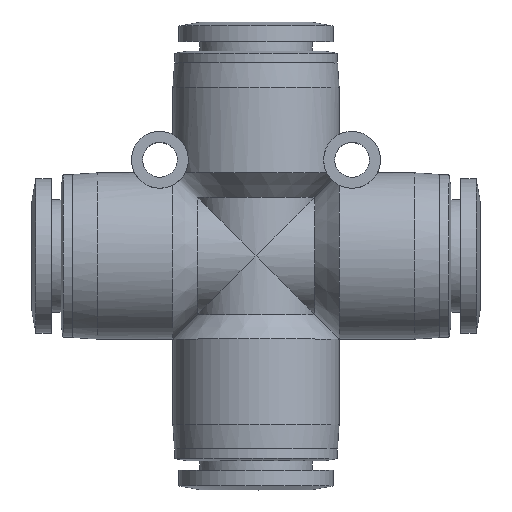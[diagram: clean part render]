
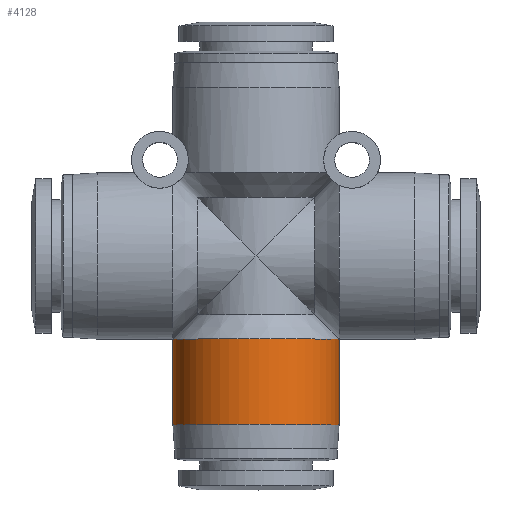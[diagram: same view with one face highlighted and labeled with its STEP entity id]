
A CAD part, top view. The second image highlights one B-rep face of the part: STEP entity #4128.
In plain terms, the highlighted cylindrical face has radius 10.25 mm (diameter 20.5 mm), a partial arc.
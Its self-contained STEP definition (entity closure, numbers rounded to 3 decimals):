
#242 = CARTESIAN_POINT ( 'NONE',  ( -2.683, -10.25, 9.983 ) ) ;
#377 = VECTOR ( 'NONE', #2493, 1000. ) ;
#464 = CARTESIAN_POINT ( 'NONE',  ( 8.197, -20.8, 6.299 ) ) ;
#502 = CARTESIAN_POINT ( 'NONE',  ( -2.683, -20.8, 9.983 ) ) ;
#560 = EDGE_CURVE ( 'NONE', #1335, #4338, #625, .T. ) ;
#579 = CARTESIAN_POINT ( 'NONE',  ( 10.25, -20.8, 0. ) ) ;
#589 = CARTESIAN_POINT ( 'NONE',  ( 2.683, -10.25, 9.983 ) ) ;
#625 = LINE ( 'NONE', #5816, #1663 ) ;
#747 = CARTESIAN_POINT ( 'NONE',  ( 10.25, -10.25, 0. ) ) ;
#854 = VERTEX_POINT ( 'NONE', #1854 ) ;
#1084 = CARTESIAN_POINT ( 'NONE',  ( 2.683, -20.8, 9.983 ) ) ;
#1204 = DIRECTION ( 'NONE',  ( 0., 1., 0. ) ) ;
#1241 = AXIS2_PLACEMENT_3D ( 'NONE', #6901, #2243, #2106 ) ;
#1335 = VERTEX_POINT ( 'NONE', #3592 ) ;
#1455 = CARTESIAN_POINT ( 'NONE',  ( 10.25, -10.25, 0. ) ) ;
#1663 = VECTOR ( 'NONE', #1204, 1000. ) ;
#1751 = CARTESIAN_POINT ( 'NONE',  ( 6.299, -10.25, 8.197 ) ) ;
#1854 = CARTESIAN_POINT ( 'NONE',  ( 10.25, -20.8, 0. ) ) ;
#1912 = CARTESIAN_POINT ( 'NONE',  ( 10.25, -15.525, 0. ) ) ;
#2094 = CARTESIAN_POINT ( 'NONE',  ( -10.25, -10.25, 0. ) ) ;
#2106 = DIRECTION ( 'NONE',  ( -1., 0., 0. ) ) ;
#2243 = DIRECTION ( 'NONE',  ( 0., 1., 0. ) ) ;
#2289 = CARTESIAN_POINT ( 'NONE',  ( -8.956, -20.8, 5.162 ) ) ;
#2352 = ORIENTED_EDGE ( 'NONE', *, *, #560, .F. ) ;
#2370 = CARTESIAN_POINT ( 'NONE',  ( -1.342, -10.25, 10.25 ) ) ;
#2493 = DIRECTION ( 'NONE',  ( 0., 1., 0. ) ) ;
#2723 = FACE_OUTER_BOUND ( 'NONE', #3558, .T. ) ;
#2825 = CYLINDRICAL_SURFACE ( 'NONE', #1241, 10.25 ) ;
#2868 = CARTESIAN_POINT ( 'NONE',  ( -5.162, -20.8, 8.956 ) ) ;
#3071 = CARTESIAN_POINT ( 'NONE',  ( 8.956, -10.25, 5.162 ) ) ;
#3187 = CARTESIAN_POINT ( 'NONE',  ( -10.25, -10.25, 0. ) ) ;
#3444 = CARTESIAN_POINT ( 'NONE',  ( 9.983, -20.8, 2.683 ) ) ;
#3531 = CARTESIAN_POINT ( 'NONE',  ( 5.162, -10.25, 8.956 ) ) ;
#3558 = EDGE_LOOP ( 'NONE', ( #6287, #4491, #5739, #2352 ) ) ;
#3592 = CARTESIAN_POINT ( 'NONE',  ( -10.25, -20.8, 0. ) ) ;
#3722 = CARTESIAN_POINT ( 'NONE',  ( -8.956, -10.25, 5.162 ) ) ;
#3768 = CARTESIAN_POINT ( 'NONE',  ( -9.983, -10.25, 2.683 ) ) ;
#4016 = B_SPLINE_CURVE_WITH_KNOTS ( 'NONE', 3,
 ( #747, #6021, #6633, #3071, #7209, #1751, #3531, #589, #7674, #2370, #242, #7247, #5548, #4381, #3722, #3768, #4884, #3187 ),
 .UNSPECIFIED., .F., .F.,
 ( 4, 2, 2, 2, 2, 2, 2, 2, 4 ),
 ( 0., 0.125, 0.25, 0.375, 0.5, 0.625, 0.75, 0.875, 1. ),
 .UNSPECIFIED. ) ;
#4021 = CARTESIAN_POINT ( 'NONE',  ( 6.299, -20.8, 8.197 ) ) ;
#4128 = ADVANCED_FACE ( 'NONE', ( #2723 ), #2825, .T. ) ;
#4338 = VERTEX_POINT ( 'NONE', #2094 ) ;
#4381 = CARTESIAN_POINT ( 'NONE',  ( -8.197, -10.25, 6.299 ) ) ;
#4491 = ORIENTED_EDGE ( 'NONE', *, *, #4674, .T. ) ;
#4644 = CARTESIAN_POINT ( 'NONE',  ( 8.956, -20.8, 5.162 ) ) ;
#4674 = EDGE_CURVE ( 'NONE', #854, #7086, #4771, .T. ) ;
#4771 = LINE ( 'NONE', #1912, #377 ) ;
#4884 = CARTESIAN_POINT ( 'NONE',  ( -10.25, -10.25, 1.342 ) ) ;
#5218 = CARTESIAN_POINT ( 'NONE',  ( -6.299, -20.8, 8.197 ) ) ;
#5548 = CARTESIAN_POINT ( 'NONE',  ( -6.299, -10.25, 8.197 ) ) ;
#5608 = B_SPLINE_CURVE_WITH_KNOTS ( 'NONE', 3,
 ( #579, #6973, #3444, #4644, #464, #4021, #6393, #1084, #5808, #7011, #502, #2868, #5218, #7592, #2289, #5884, #6389, #6427 ),
 .UNSPECIFIED., .F., .F.,
 ( 4, 2, 2, 2, 2, 2, 2, 2, 4 ),
 ( 0.5, 0.563, 0.625, 0.688, 0.75, 0.813, 0.875, 0.938, 1. ),
 .UNSPECIFIED. ) ;
#5739 = ORIENTED_EDGE ( 'NONE', *, *, #7406, .T. ) ;
#5808 = CARTESIAN_POINT ( 'NONE',  ( 1.342, -20.8, 10.25 ) ) ;
#5816 = CARTESIAN_POINT ( 'NONE',  ( -10.25, -15.525, 0. ) ) ;
#5884 = CARTESIAN_POINT ( 'NONE',  ( -9.983, -20.8, 2.683 ) ) ;
#6021 = CARTESIAN_POINT ( 'NONE',  ( 10.25, -10.25, 1.342 ) ) ;
#6287 = ORIENTED_EDGE ( 'NONE', *, *, #7657, .F. ) ;
#6389 = CARTESIAN_POINT ( 'NONE',  ( -10.25, -20.8, 1.342 ) ) ;
#6393 = CARTESIAN_POINT ( 'NONE',  ( 5.162, -20.8, 8.956 ) ) ;
#6427 = CARTESIAN_POINT ( 'NONE',  ( -10.25, -20.8, 0. ) ) ;
#6633 = CARTESIAN_POINT ( 'NONE',  ( 9.983, -10.25, 2.683 ) ) ;
#6901 = CARTESIAN_POINT ( 'NONE',  ( 0., -15.525, 0. ) ) ;
#6973 = CARTESIAN_POINT ( 'NONE',  ( 10.25, -20.8, 1.342 ) ) ;
#7011 = CARTESIAN_POINT ( 'NONE',  ( -1.342, -20.8, 10.25 ) ) ;
#7086 = VERTEX_POINT ( 'NONE', #1455 ) ;
#7209 = CARTESIAN_POINT ( 'NONE',  ( 8.197, -10.25, 6.299 ) ) ;
#7247 = CARTESIAN_POINT ( 'NONE',  ( -5.162, -10.25, 8.956 ) ) ;
#7406 = EDGE_CURVE ( 'NONE', #7086, #4338, #4016, .T. ) ;
#7592 = CARTESIAN_POINT ( 'NONE',  ( -8.197, -20.8, 6.299 ) ) ;
#7657 = EDGE_CURVE ( 'NONE', #854, #1335, #5608, .T. ) ;
#7674 = CARTESIAN_POINT ( 'NONE',  ( 1.342, -10.25, 10.25 ) ) ;
